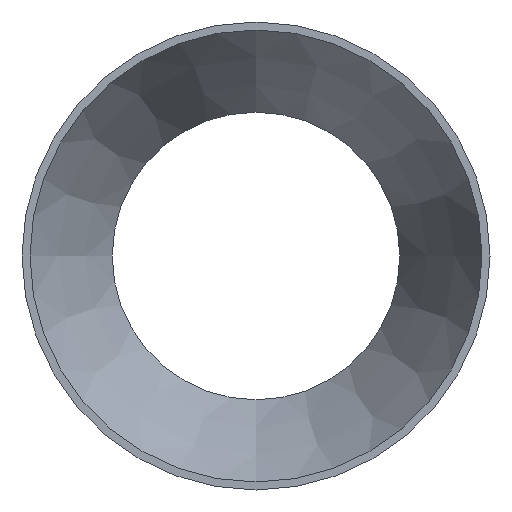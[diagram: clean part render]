
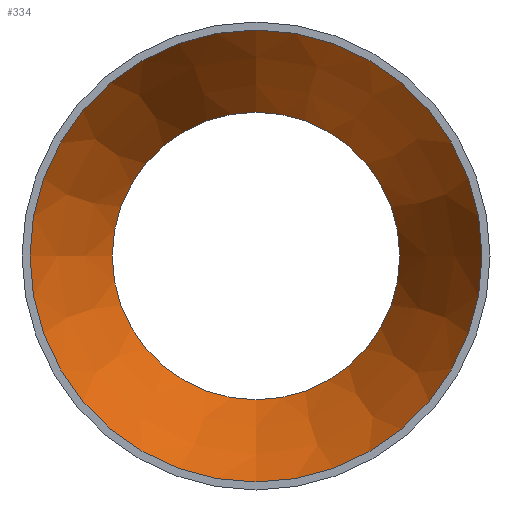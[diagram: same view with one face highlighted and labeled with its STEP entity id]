
A CAD part, left-side view. The second image highlights one B-rep face of the part: STEP entity #334.
In plain terms, the highlighted conical face has half-angle 25.614 degrees and reference radius 86.55 mm.
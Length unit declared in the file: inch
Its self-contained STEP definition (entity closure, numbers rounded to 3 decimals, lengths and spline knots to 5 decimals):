
#66=FACE_OUTER_BOUND('',#82,.T.);
#82=EDGE_LOOP('',(#235,#236,#237,#238,#239,#240));
#104=LINE('',#580,#114);
#114=VECTOR('',#447,3.4075);
#127=CIRCLE('',#375,2.65);
#128=CIRCLE('',#376,4.165);
#129=CIRCLE('',#377,4.165);
#130=CIRCLE('',#378,2.65);
#159=VERTEX_POINT('',#576);
#160=VERTEX_POINT('',#577);
#161=VERTEX_POINT('',#579);
#162=VERTEX_POINT('',#581);
#192=EDGE_CURVE('',#159,#160,#127,.T.);
#193=EDGE_CURVE('',#160,#161,#104,.T.);
#194=EDGE_CURVE('',#162,#161,#128,.T.);
#195=EDGE_CURVE('',#161,#162,#129,.T.);
#196=EDGE_CURVE('',#160,#159,#130,.T.);
#235=ORIENTED_EDGE('',*,*,#192,.T.);
#236=ORIENTED_EDGE('',*,*,#193,.T.);
#237=ORIENTED_EDGE('',*,*,#194,.F.);
#238=ORIENTED_EDGE('',*,*,#195,.F.);
#239=ORIENTED_EDGE('',*,*,#193,.F.);
#240=ORIENTED_EDGE('',*,*,#196,.T.);
#314=CONICAL_SURFACE('',#374,3.4075,0.447);
#334=ADVANCED_FACE('',(#66),#314,.F.);
#374=AXIS2_PLACEMENT_3D('',#575,#443,#444);
#375=AXIS2_PLACEMENT_3D('',#578,#445,#446);
#376=AXIS2_PLACEMENT_3D('',#582,#448,#449);
#377=AXIS2_PLACEMENT_3D('',#583,#450,#451);
#378=AXIS2_PLACEMENT_3D('',#584,#452,#453);
#443=DIRECTION('center_axis',(-1.,0.,0.));
#444=DIRECTION('ref_axis',(0.,1.,0.));
#445=DIRECTION('center_axis',(1.,0.,0.));
#446=DIRECTION('ref_axis',(0.,1.,0.));
#447=DIRECTION('',(-0.902,-0.432,0.));
#448=DIRECTION('center_axis',(1.,0.,0.));
#449=DIRECTION('ref_axis',(0.,1.,0.));
#450=DIRECTION('center_axis',(1.,0.,0.));
#451=DIRECTION('ref_axis',(0.,1.,0.));
#452=DIRECTION('center_axis',(1.,0.,0.));
#453=DIRECTION('ref_axis',(0.,1.,0.));
#575=CARTESIAN_POINT('Origin',(3.16,0.,0.));
#576=CARTESIAN_POINT('',(4.74,2.65,0.));
#577=CARTESIAN_POINT('',(4.74,-2.65,0.));
#578=CARTESIAN_POINT('Origin',(4.74,0.,0.));
#579=CARTESIAN_POINT('',(1.58,-4.165,0.));
#580=CARTESIAN_POINT('',(3.16,-3.4075,0.));
#581=CARTESIAN_POINT('',(1.58,4.165,0.));
#582=CARTESIAN_POINT('Origin',(1.58,0.,0.));
#583=CARTESIAN_POINT('Origin',(1.58,0.,0.));
#584=CARTESIAN_POINT('Origin',(4.74,0.,0.));
